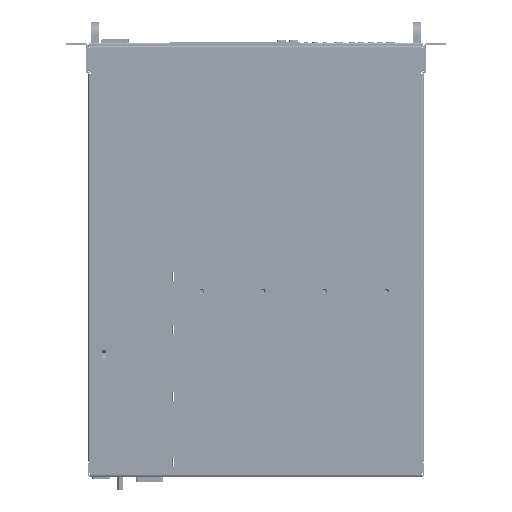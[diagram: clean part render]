
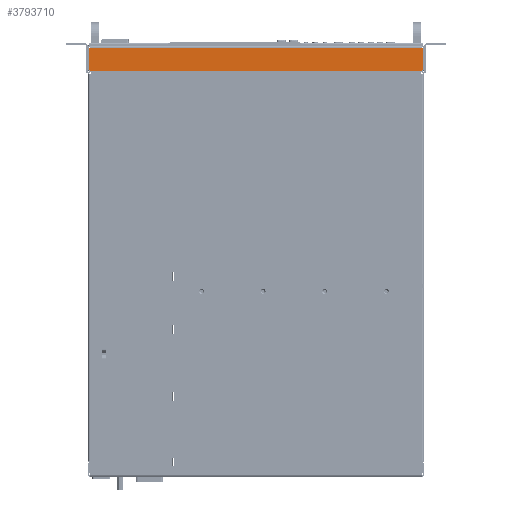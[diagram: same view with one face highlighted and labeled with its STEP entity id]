
A CAD part, front view. The second image highlights one B-rep face of the part: STEP entity #3793710.
In plain terms, the highlighted planar face has unit normal (0, -1, 0).
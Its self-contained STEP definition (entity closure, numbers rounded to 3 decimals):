
#3616160=CARTESIAN_POINT('',(-166.46,0.656,-41.247));
#3616170=VERTEX_POINT('',#3616160);
#3616200=CARTESIAN_POINT('',(-165.46,0.656,-41.247));
#3616210=DIRECTION('',(0.,-1.,0.));
#3616220=DIRECTION('',(1.,0.,0.));
#3616230=AXIS2_PLACEMENT_3D('',#3616200,#3616210,#3616220);
#3616240=CIRCLE('',#3616230,1.);
#3616250=CARTESIAN_POINT('',(-165.46,0.656,-42.247));
#3616260=VERTEX_POINT('',#3616250);
#3616270=EDGE_CURVE('',#3616170,#3616260,#3616240,.T.);
#3616910=CARTESIAN_POINT('',(-165.491,0.656,-12.989));
#3616920=VERTEX_POINT('',#3616910);
#3616950=CARTESIAN_POINT('',(-165.491,0.656,0.));
#3616960=DIRECTION('',(0.,0.,1.));
#3616970=VECTOR('',#3616960,1.);
#3616980=LINE('',#3616950,#3616970);
#3616990=CARTESIAN_POINT('',(-165.491,0.656,-13.195));
#3617000=VERTEX_POINT('',#3616990);
#3617010=EDGE_CURVE('',#3617000,#3616920,#3616980,.T.);
#3617230=CARTESIAN_POINT('',(-166.46,0.656,-13.195));
#3617240=VERTEX_POINT('',#3617230);
#3617340=CARTESIAN_POINT('',(0.,0.656,-13.195));
#3617350=DIRECTION('',(1.,0.,0.));
#3617360=VECTOR('',#3617350,1.);
#3617370=LINE('',#3617340,#3617360);
#3617380=EDGE_CURVE('',#3617240,#3617000,#3617370,.T.);
#3617940=CARTESIAN_POINT('',(254.991,0.656,-12.989));
#3617950=VERTEX_POINT('',#3617940);
#3617980=CARTESIAN_POINT('',(0.,0.656,-12.989));
#3617990=DIRECTION('',(-1.,0.,0.));
#3618000=VECTOR('',#3617990,1.);
#3618010=LINE('',#3617980,#3618000);
#3618020=EDGE_CURVE('',#3617950,#3616920,#3618010,.T.);
#3622220=CARTESIAN_POINT('',(254.96,0.656,-42.247));
#3622230=VERTEX_POINT('',#3622220);
#3622330=CARTESIAN_POINT('',(0.,0.656,-42.247));
#3622340=DIRECTION('',(-1.,0.,0.));
#3622350=VECTOR('',#3622340,1.);
#3622360=LINE('',#3622330,#3622350);
#3622370=EDGE_CURVE('',#3622230,#3616260,#3622360,.T.);
#3791290=CARTESIAN_POINT('',(254.991,0.656,-13.195));
#3791300=VERTEX_POINT('',#3791290);
#3791330=CARTESIAN_POINT('',(254.991,0.656,0.));
#3791340=DIRECTION('',(0.,0.,1.));
#3791350=VECTOR('',#3791340,1.);
#3791360=LINE('',#3791330,#3791350);
#3791370=EDGE_CURVE('',#3791300,#3617950,#3791360,.T.);
#3792790=CARTESIAN_POINT('',(-166.46,0.656,0.));
#3792800=DIRECTION('',(0.,0.,1.));
#3792810=VECTOR('',#3792800,1.);
#3792820=LINE('',#3792790,#3792810);
#3792830=EDGE_CURVE('',#3616170,#3617240,#3792820,.T.);
#3792990=CARTESIAN_POINT('',(255.96,0.656,-13.195));
#3793000=VERTEX_POINT('',#3792990);
#3793030=CARTESIAN_POINT('',(0.,0.656,-13.195));
#3793040=DIRECTION('',(1.,0.,0.));
#3793050=VECTOR('',#3793040,1.);
#3793060=LINE('',#3793030,#3793050);
#3793070=EDGE_CURVE('',#3791300,#3793000,#3793060,.T.);
#3793210=CARTESIAN_POINT('',(255.96,0.656,-41.247));
#3793220=VERTEX_POINT('',#3793210);
#3793250=CARTESIAN_POINT('',(255.96,0.656,0.));
#3793260=DIRECTION('',(0.,0.,-1.));
#3793270=VECTOR('',#3793260,1.);
#3793280=LINE('',#3793250,#3793270);
#3793290=EDGE_CURVE('',#3793000,#3793220,#3793280,.T.);
#3793420=CARTESIAN_POINT('',(254.96,0.656,-41.247));
#3793430=DIRECTION('',(0.,-1.,0.));
#3793440=DIRECTION('',(1.,0.,0.));
#3793450=AXIS2_PLACEMENT_3D('',#3793420,#3793430,#3793440);
#3793460=CIRCLE('',#3793450,1.);
#3793470=EDGE_CURVE('',#3622230,#3793220,#3793460,.T.);
#3793540=CARTESIAN_POINT('',(137.636,0.656,
-33.042));
#3793550=DIRECTION('',(0.,-1.,0.));
#3793560=DIRECTION('',(1.,0.,0.));
#3793570=AXIS2_PLACEMENT_3D('',#3793540,#3793550,#3793560);
#3793580=PLANE('',#3793570);
#3793590=ORIENTED_EDGE('',*,*,#3792830,.F.);
#3793600=ORIENTED_EDGE('',*,*,#3617380,.F.);
#3793610=ORIENTED_EDGE('',*,*,#3617010,.F.);
#3793620=ORIENTED_EDGE('',*,*,#3618020,.T.);
#3793630=ORIENTED_EDGE('',*,*,#3791370,.T.);
#3793640=ORIENTED_EDGE('',*,*,#3793070,.F.);
#3793650=ORIENTED_EDGE('',*,*,#3793290,.F.);
#3793660=ORIENTED_EDGE('',*,*,#3793470,.T.);
#3793670=ORIENTED_EDGE('',*,*,#3622370,.F.);
#3793680=ORIENTED_EDGE('',*,*,#3616270,.T.);
#3793690=EDGE_LOOP('',(#3793680,#3793670,#3793660,#3793650,#3793640,
#3793630,#3793620,#3793610,#3793600,#3793590));
#3793700=FACE_OUTER_BOUND('',#3793690,.T.);
#3793710=ADVANCED_FACE('',(#3793700),#3793580,.T.);
